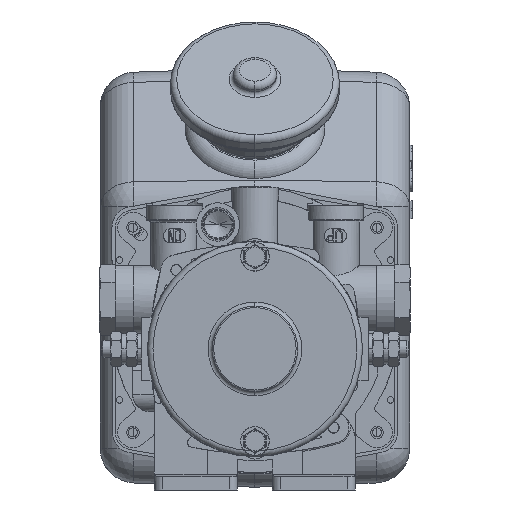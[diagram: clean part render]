
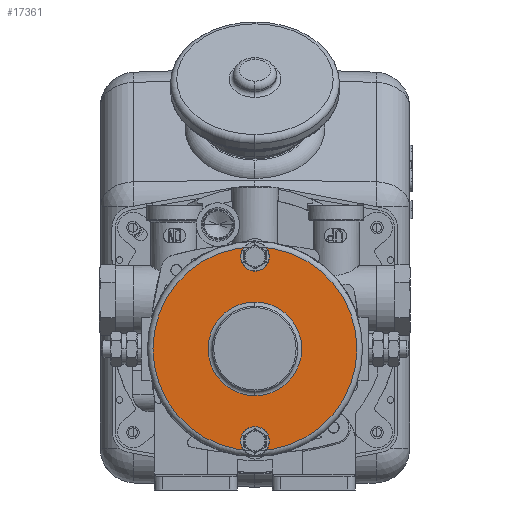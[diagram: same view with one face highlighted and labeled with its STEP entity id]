
A CAD part, front view. The second image highlights one B-rep face of the part: STEP entity #17361.
In plain terms, the highlighted planar face has unit normal (0, 1, 0).
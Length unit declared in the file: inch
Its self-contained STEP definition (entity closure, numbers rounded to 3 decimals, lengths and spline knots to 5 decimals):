
#16364=CARTESIAN_POINT('',(0.,-4.442,-0.27));
#16365=DIRECTION('',(0.,-1.,0.));
#16366=DIRECTION('',(0.,0.,-1.));
#16367=AXIS2_PLACEMENT_3D('',#16364,#16365,#16366);
#16369=CARTESIAN_POINT('',(0.,-4.442,-0.27));
#16370=DIRECTION('',(0.,-1.,0.));
#16371=DIRECTION('',(0.,0.,1.));
#16372=AXIS2_PLACEMENT_3D('',#16369,#16370,#16371);
#16374=CARTESIAN_POINT('',(0.,-4.442,-0.27));
#16375=DIRECTION('',(0.,1.,0.));
#16376=DIRECTION('',(0.,0.,1.));
#16377=AXIS2_PLACEMENT_3D('',#16374,#16375,#16376);
#16379=CARTESIAN_POINT('',(0.,-4.442,-0.27));
#16380=DIRECTION('',(0.,1.,0.));
#16381=DIRECTION('',(0.,0.,-1.));
#16382=AXIS2_PLACEMENT_3D('',#16379,#16380,#16381);
#16384=CARTESIAN_POINT('',(0.,-4.442,1.049));
#16385=DIRECTION('',(0.,1.,0.));
#16386=DIRECTION('',(0.,0.,1.));
#16387=AXIS2_PLACEMENT_3D('',#16384,#16385,#16386);
#16389=CARTESIAN_POINT('',(0.,-4.442,1.049));
#16390=DIRECTION('',(0.,1.,0.));
#16391=DIRECTION('',(0.,0.,-1.));
#16392=AXIS2_PLACEMENT_3D('',#16389,#16390,#16391);
#16394=CARTESIAN_POINT('',(0.,-4.442,-1.589));
#16395=DIRECTION('',(0.,1.,0.));
#16396=DIRECTION('',(0.,0.,1.));
#16397=AXIS2_PLACEMENT_3D('',#16394,#16395,#16396);
#16399=CARTESIAN_POINT('',(0.,-4.442,-1.589));
#16400=DIRECTION('',(0.,1.,0.));
#16401=DIRECTION('',(0.,0.,-1.));
#16402=AXIS2_PLACEMENT_3D('',#16399,#16400,#16401);
#17016=CARTESIAN_POINT('',(0.,-4.442,0.951));
#17018=VERTEX_POINT('',#17016);
#17021=CARTESIAN_POINT('',(0.,-4.442,1.147));
#17023=VERTEX_POINT('',#17021);
#17104=CARTESIAN_POINT('',(0.,-4.442,1.1895));
#17105=VERTEX_POINT('',#17104);
#17106=CARTESIAN_POINT('',(0.,-4.442,-1.7295));
#17107=VERTEX_POINT('',#17106);
#17112=CARTESIAN_POINT('',(0.,-4.442,0.4));
#17114=VERTEX_POINT('',#17112);
#17115=CARTESIAN_POINT('',(0.,-4.442,-0.94));
#17117=VERTEX_POINT('',#17115);
#17127=CARTESIAN_POINT('',(0.,-4.442,-1.687));
#17129=VERTEX_POINT('',#17127);
#17132=CARTESIAN_POINT('',(0.,-4.442,-1.491));
#17134=VERTEX_POINT('',#17132);
#17334=CARTESIAN_POINT('',(0.,-4.442,-0.27));
#17335=DIRECTION('',(0.,1.,0.));
#17336=DIRECTION('',(0.,0.,-1.));
#17337=AXIS2_PLACEMENT_3D('',#17334,#17335,#17336);
#17338=PLANE('',#17337);
#17340=ORIENTED_EDGE('',*,*,#17339,.T.);
#17342=ORIENTED_EDGE('',*,*,#17341,.T.);
#17343=EDGE_LOOP('',(#17340,#17342));
#17344=FACE_OUTER_BOUND('',#17343,.F.);
#17346=ORIENTED_EDGE('',*,*,#17345,.T.);
#17348=ORIENTED_EDGE('',*,*,#17347,.T.);
#17349=EDGE_LOOP('',(#17346,#17348));
#17350=FACE_BOUND('',#17349,.F.);
#17351=ORIENTED_EDGE('',*,*,#17314,.T.);
#17352=ORIENTED_EDGE('',*,*,#17328,.T.);
#17353=EDGE_LOOP('',(#17351,#17352));
#17354=FACE_BOUND('',#17353,.F.);
#17356=ORIENTED_EDGE('',*,*,#17355,.T.);
#17358=ORIENTED_EDGE('',*,*,#17357,.T.);
#17359=EDGE_LOOP('',(#17356,#17358));
#17360=FACE_BOUND('',#17359,.F.);
#17361=ADVANCED_FACE('',(#17344,#17350,#17354,#17360),#17338,.T.);
#16368=CIRCLE('',#16367,1.4595);
#16373=CIRCLE('',#16372,1.4595);
#16378=CIRCLE('',#16377,0.67);
#16383=CIRCLE('',#16382,0.67);
#16388=CIRCLE('',#16387,0.098);
#16393=CIRCLE('',#16392,0.098);
#16398=CIRCLE('',#16397,0.098);
#16403=CIRCLE('',#16402,0.098);
#17314=EDGE_CURVE('',#17023,#17018,#16388,.T.);
#17328=EDGE_CURVE('',#17018,#17023,#16393,.T.);
#17339=EDGE_CURVE('',#17107,#17105,#16368,.T.);
#17341=EDGE_CURVE('',#17105,#17107,#16373,.T.);
#17345=EDGE_CURVE('',#17114,#17117,#16378,.T.);
#17347=EDGE_CURVE('',#17117,#17114,#16383,.T.);
#17355=EDGE_CURVE('',#17134,#17129,#16398,.T.);
#17357=EDGE_CURVE('',#17129,#17134,#16403,.T.);
